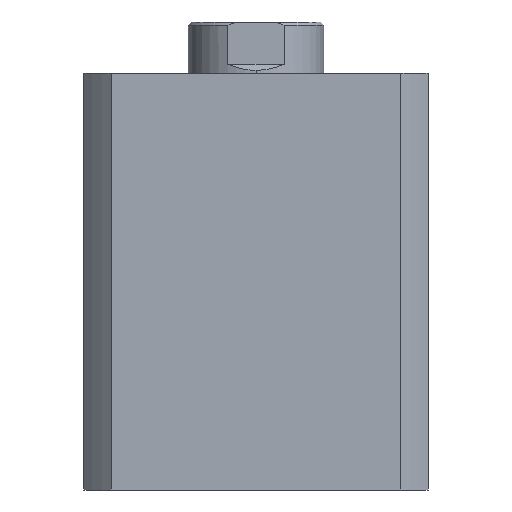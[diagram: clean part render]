
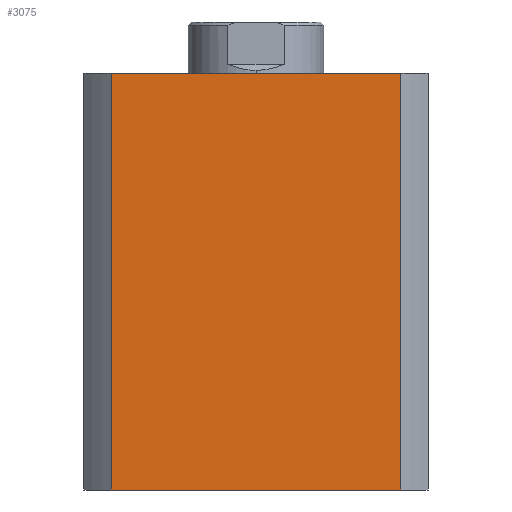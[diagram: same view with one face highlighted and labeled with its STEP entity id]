
A CAD part, left-side view. The second image highlights one B-rep face of the part: STEP entity #3075.
In plain terms, the highlighted planar face has unit normal (-1, 0, 0).
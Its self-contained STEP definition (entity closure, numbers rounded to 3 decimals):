
#479 = FACE_OUTER_BOUND ( 'NONE', #1505, .T. ) ;
#598 = AXIS2_PLACEMENT_3D ( 'NONE', #4108, #4098, #4097 ) ;
#1087 = VERTEX_POINT ( 'NONE', #1698 ) ;
#1144 = VERTEX_POINT ( 'NONE', #1639 ) ;
#1196 = EDGE_CURVE ( 'NONE', #2046, #1981, #2215, .T. ) ;
#1251 = EDGE_CURVE ( 'NONE', #1144, #2046, #4638, .T. ) ;
#1264 = EDGE_CURVE ( 'NONE', #1087, #1981, #4660, .T. ) ;
#1269 = EDGE_CURVE ( 'NONE', #1144, #1087, #4664, .T. ) ;
#1463 = ORIENTED_EDGE ( 'NONE', *, *, #1196, .T. ) ;
#1464 = ORIENTED_EDGE ( 'NONE', *, *, #1264, .F. ) ;
#1465 = ORIENTED_EDGE ( 'NONE', *, *, #1269, .F. ) ;
#1466 = ORIENTED_EDGE ( 'NONE', *, *, #1251, .T. ) ;
#1505 = EDGE_LOOP ( 'NONE', ( #1463, #1464, #1465, #1466 ) ) ;
#1546 = CARTESIAN_POINT ( 'NONE',  ( -57., 0., 0. ) ) ;
#1547 = DIRECTION ( 'NONE',  ( 0., -1., 0. ) ) ;
#1639 = CARTESIAN_POINT ( 'NONE',  ( -57., 47.971, 138. ) ) ;
#1698 = CARTESIAN_POINT ( 'NONE',  ( -57., -47.971, 138. ) ) ;
#1981 = VERTEX_POINT ( 'NONE', #4575 ) ;
#2046 = VERTEX_POINT ( 'NONE', #4485 ) ;
#2215 = LINE ( 'NONE', #1546, #2219 ) ;
#2219 = VECTOR ( 'NONE', #1547, 1000. ) ;
#3075 = ADVANCED_FACE ( 'NONE', ( #479 ), #4102, .F. ) ;
#3677 = CARTESIAN_POINT ( 'NONE',  ( -57., 0., 138. ) ) ;
#3704 = DIRECTION ( 'NONE',  ( 0., -1., 0. ) ) ;
#3729 = CARTESIAN_POINT ( 'NONE',  ( -57., -47.971, 138. ) ) ;
#3730 = DIRECTION ( 'NONE',  ( 0., 0., -1. ) ) ;
#3815 = DIRECTION ( 'NONE',  ( 0., 0., -1. ) ) ;
#3830 = CARTESIAN_POINT ( 'NONE',  ( -57., 47.971, 138. ) ) ;
#4097 = DIRECTION ( 'NONE',  ( 0., 0., -1. ) ) ;
#4098 = DIRECTION ( 'NONE',  ( 1., 0., 0. ) ) ;
#4102 = PLANE ( 'NONE',  #598 ) ;
#4108 = CARTESIAN_POINT ( 'NONE',  ( -57., 0., 138. ) ) ;
#4485 = CARTESIAN_POINT ( 'NONE',  ( -57., 47.971, 0. ) ) ;
#4575 = CARTESIAN_POINT ( 'NONE',  ( -57., -47.971, 0. ) ) ;
#4638 = LINE ( 'NONE', #3830, #4643 ) ;
#4643 = VECTOR ( 'NONE', #3815, 1000. ) ;
#4660 = LINE ( 'NONE', #3729, #4661 ) ;
#4661 = VECTOR ( 'NONE', #3730, 1000. ) ;
#4664 = LINE ( 'NONE', #3677, #4668 ) ;
#4668 = VECTOR ( 'NONE', #3704, 1000. ) ;
